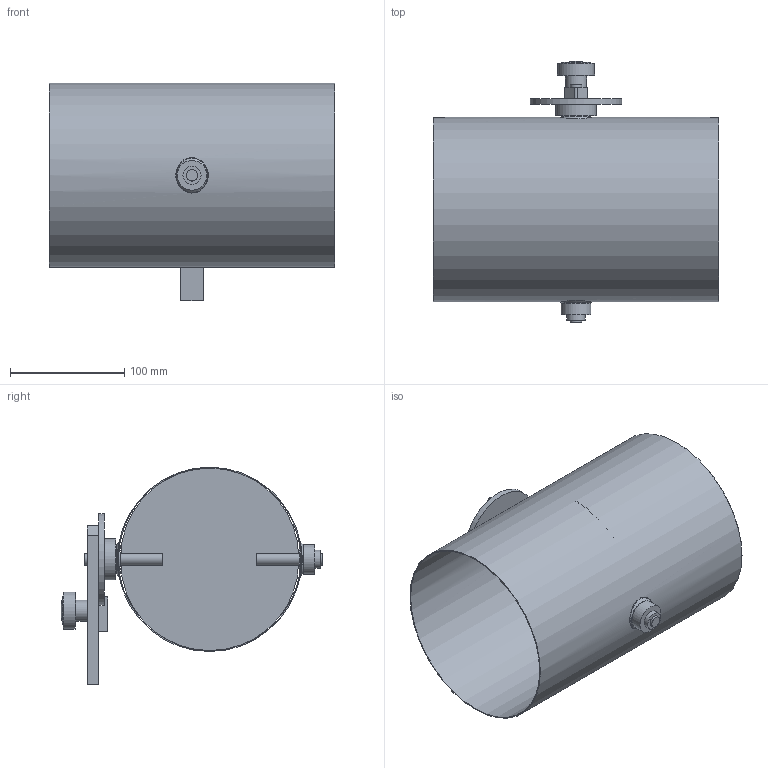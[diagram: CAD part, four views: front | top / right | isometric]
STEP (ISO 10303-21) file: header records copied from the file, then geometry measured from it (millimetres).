
FILE_DESCRIPTION(/* description */ (''),/* implementation_level */ '2;1');
FILE_NAME(/* name */ 'METU_Drosselklappe_glatt_verzinkt_AA125-80B__160_L250_handbetaetigt.stp',/* time_stamp */ '2022-04-22T14:28:07+02:00',/* author */ (''),/* organization */ (''),/* preprocessor_version */ 'ST-DEVELOPER v11',/* originating_system */ 'SIEMENS UGS NX 6.0',/* authorisation */ '');
FILE_SCHEMA (('CONFIG_CONTROL_DESIGN'));
Length unit declared in the file: millimetre
Products named in the file (1): d.ga332Aq90u
Bounding box: 250 x 228.97 x 190.8 mm (x, y, z)
Volume: 215261.5 mm3; surface area: 332685.7 mm2
Topology: 12 solids, 12 shells, 90 faces, 185 edges, 128 vertices
Faces by surface type: plane 44, cylinder 32, cone 4, bspline 4, torus 4, sphere 2
Full cylindrical faces by diameter (mm): 4.2 x1, 4.4 x4, 5 x1, 6 x1, 10 x5, 15 x3, 15.85 x2, 16 x2, 18.5 x1, 24 x2, 25 x1, 26 x1, 32.5 x1, 36 x1, 80 x1, 160 x1, 161.6 x1
Entity records: 2704 total; most frequent: CARTESIAN_POINT 921, DIRECTION 360, ORIENTED_EDGE 244, EDGE_LOOP 170, AXIS2_PLACEMENT_3D 159, FACE_BOUND 148, EDGE_CURVE 122, VERTEX_POINT 106
